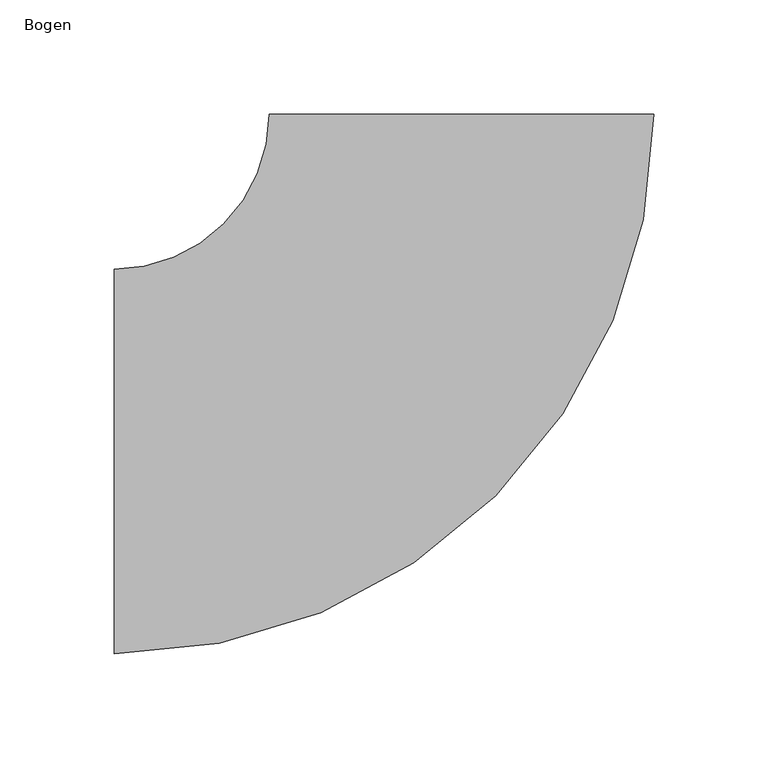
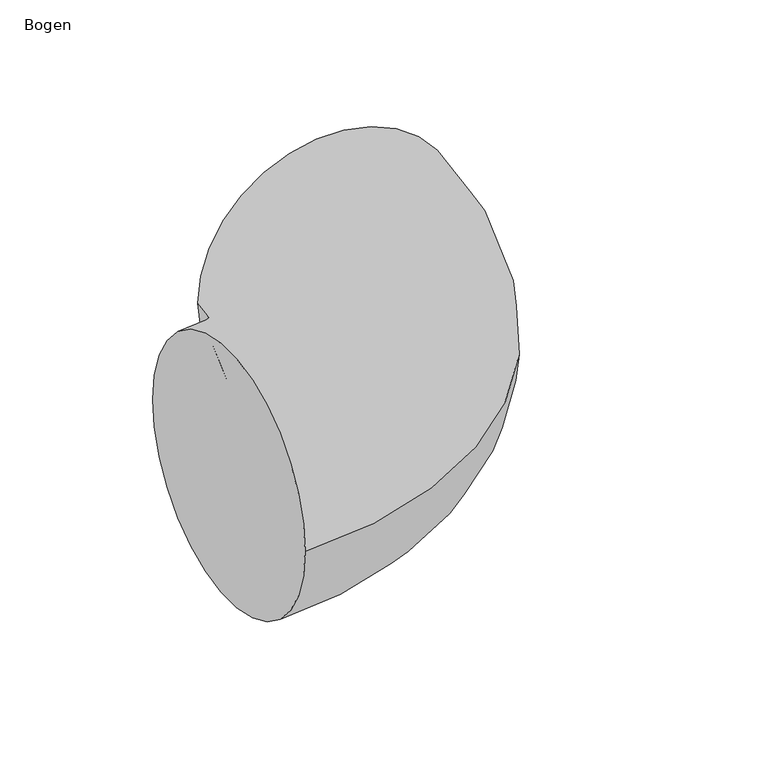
"""IFC4 building model written with IfcOpenShell, lengths in millimetres: pipe fitting geometry, Bogen : Kälteanlage für Umgebung."""

from ifc_helpers import new_model, si_unit, point, frame, origin, place, context, project, spatial, circle_curve, ellipse_curve, trimmed, source, transform, mapped, element, save
from ifc_brep_helpers import plane_surface, revolved_surface, advanced_brep


def bogen_9026c7fe(model_context):
    return source(origin(), model_context, "Body", "AdvancedBrep", [
        advanced_brep(
        [(-152.0, -84.15, 0.0), (-152.0, 84.15, 0.0), (84.15, 152.0, 0.0), (-84.15, 152.0, 0.0)],
        [
            (0, 1, circle_curve(frame((-152.0, 0.0, 0.0), z_axis=(-1.0, 0.0, 0.0), x_axis=(0.0, 1.0, 0.0)), 84.15)),
            (1, 0, circle_curve(frame((-152.0, 0.0, 0.0), z_axis=(-1.0, 0.0, 0.0), x_axis=(0.0, 1.0, 0.0)), 84.15)),
            (2, 3, circle_curve(frame((0.0, 152.0, 0.0), z_axis=(0.0, 1.0, 0.0), x_axis=(-1.0, 0.0, 0.0)), 84.15)),
            (3, 2, circle_curve(frame((0.0, 152.0, 0.0), z_axis=(0.0, 1.0, 0.0), x_axis=(-1.0, 0.0, 0.0)), 84.15)),
            (3, 1, circle_curve(frame((-152.0, 152.0, 0.0), z_axis=(0.0, 0.0, -1.0), x_axis=(0.0, -1.0, 0.0)), 67.85)),
            (0, 2, circle_curve(frame((-152.0, 152.0, 0.0), z_axis=(0.0, 0.0, 1.0), x_axis=(0.0, -1.0, 0.0)), 236.15)),
        ],
        [
            plane_surface(frame((-152.0, 0.0, 0.0), z_axis=(-1.0, 0.0, 0.0), x_axis=(0.0, 0.0, 1.0))),
            plane_surface(frame((0.0, 152.0, 0.0), z_axis=(0.0, 1.0, 0.0), x_axis=(0.0, 0.0, 1.0))),
            revolved_surface(trimmed(ellipse_curve(frame((-152.0, 0.0, 0.0), z_axis=(-1.0, 0.0, 0.0), x_axis=(0.0, 1.0, 0.0)), 84.15, 84.15), [point((-152.0, -84.15, 0.0))], [point((-152.0, 84.15, 0.0))], True, "CARTESIAN"), (-152.0, 152.0, 0.0), (0.0, 0.0, 1.0)),
            revolved_surface(trimmed(ellipse_curve(frame((-152.0, 0.0, 0.0), z_axis=(-1.0, 0.0, 0.0), x_axis=(0.0, 1.0, 0.0)), 84.15, 84.15), [point((-152.0, 84.15, 0.0))], [point((-152.0, -84.15, 0.0))], True, "CARTESIAN"), (-152.0, 152.0, 0.0), (0.0, 0.0, 1.0)),
        ],
        [
            (0, [[1, 2]]),
            (1, [[3, 4]]),
            (2, [[5, -1, 6, -4]]),
            (3, [[-6, -2, -5, -3]]),
        ],
    ),
    ])


if __name__ == "__main__":
    model = new_model("IFC4")
    model_context = context("Model", 3, world=origin())
    ifc_project = project(units=[si_unit("LENGTHUNIT", "METRE", prefix="MILLI")], contexts=[model_context])
    site = spatial("IfcSite", under=ifc_project)
    building = spatial("IfcBuilding", under=site)
    placement = place(None, origin())
    bogen_shape = bogen_9026c7fe(model_context)
    element("IfcPipeFitting", 1, ObjectType="Bogen : Kälteanlage für Umgebung", at=placement, inside=building, context=model_context, shape_type="MappedRepresentation", body=[
        mapped(bogen_shape, transform((0.0, 0.0, 0.0), x_axis=(1.0, 0.0, 0.0), y_axis=(0.0, 1.0, 0.0), z_axis=(0.0, 0.0, 1.0))),
    ])
    save(model, "model.ifc")
